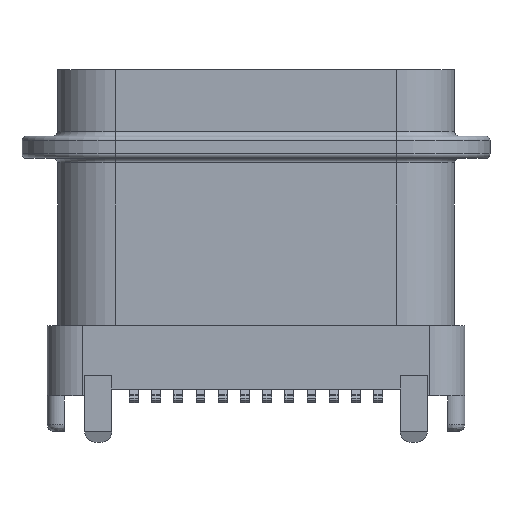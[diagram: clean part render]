
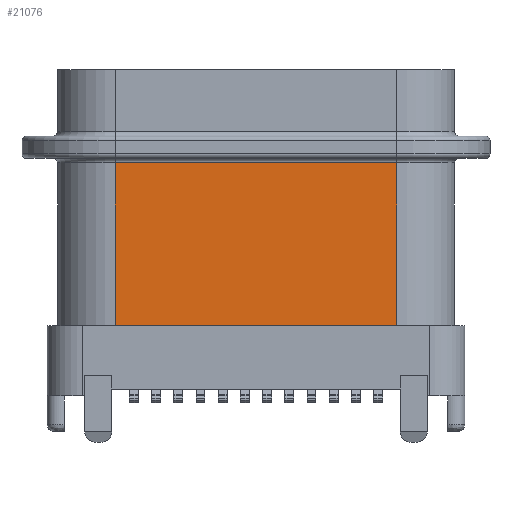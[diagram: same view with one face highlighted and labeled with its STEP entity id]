
A CAD part, front view. The second image highlights one B-rep face of the part: STEP entity #21076.
In plain terms, the highlighted planar face has unit normal (0, -1, 0).
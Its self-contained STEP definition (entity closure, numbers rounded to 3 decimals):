
#4832=DIRECTION('',(0.,0.,1.));
#4833=VECTOR('',#4832,3.67);
#4834=CARTESIAN_POINT('',(3.17,-1.58,-0.5));
#4835=LINE('',#4834,#4833);
#4899=DIRECTION('',(-1.,0.,0.));
#4900=VECTOR('',#4899,6.34);
#4901=CARTESIAN_POINT('',(3.17,-1.58,3.17));
#4902=LINE('',#4901,#4900);
#4903=DIRECTION('',(-1.,0.,0.));
#4904=VECTOR('',#4903,6.34);
#4905=CARTESIAN_POINT('',(3.17,-1.58,-0.5));
#4906=LINE('',#4905,#4904);
#4907=DIRECTION('',(0.,0.,1.));
#4908=VECTOR('',#4907,3.67);
#4909=CARTESIAN_POINT('',(-3.17,-1.58,-0.5));
#4910=LINE('',#4909,#4908);
#13056=CARTESIAN_POINT('',(3.17,-1.58,-0.5));
#13057=CARTESIAN_POINT('',(-3.17,-1.58,-0.5));
#13058=VERTEX_POINT('',#13056);
#13059=VERTEX_POINT('',#13057);
#14523=CARTESIAN_POINT('',(3.17,-1.58,3.17));
#14524=VERTEX_POINT('',#14523);
#14527=CARTESIAN_POINT('',(-3.17,-1.58,3.17));
#14528=VERTEX_POINT('',#14527);
#21064=CARTESIAN_POINT('',(-3.17,-1.58,4.5));
#21065=DIRECTION('',(0.,-1.,0.));
#21066=DIRECTION('',(1.,0.,0.));
#21067=AXIS2_PLACEMENT_3D('',#21064,#21065,#21066);
#21068=PLANE('',#21067);
#21069=ORIENTED_EDGE('',*,*,#20946,.F.);
#21070=ORIENTED_EDGE('',*,*,#20975,.F.);
#21072=ORIENTED_EDGE('',*,*,#21071,.T.);
#21073=ORIENTED_EDGE('',*,*,#21056,.T.);
#21074=EDGE_LOOP('',(#21069,#21070,#21072,#21073));
#21075=FACE_OUTER_BOUND('',#21074,.F.);
#21076=ADVANCED_FACE('',(#21075),#21068,.T.);
#20946=EDGE_CURVE('',#14524,#14528,#4902,.T.);
#20975=EDGE_CURVE('',#13058,#14524,#4835,.T.);
#21056=EDGE_CURVE('',#13059,#14528,#4910,.T.);
#21071=EDGE_CURVE('',#13058,#13059,#4906,.T.);
